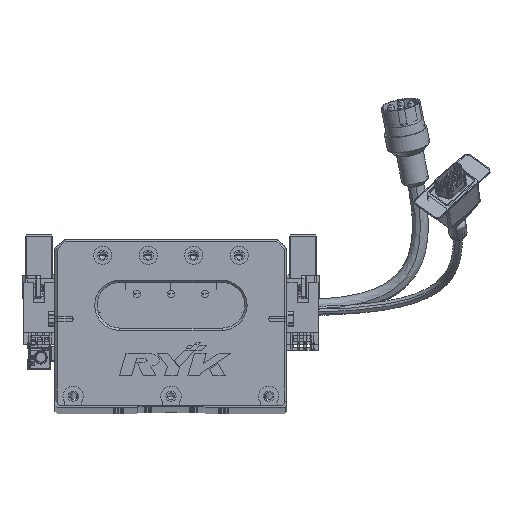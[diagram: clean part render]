
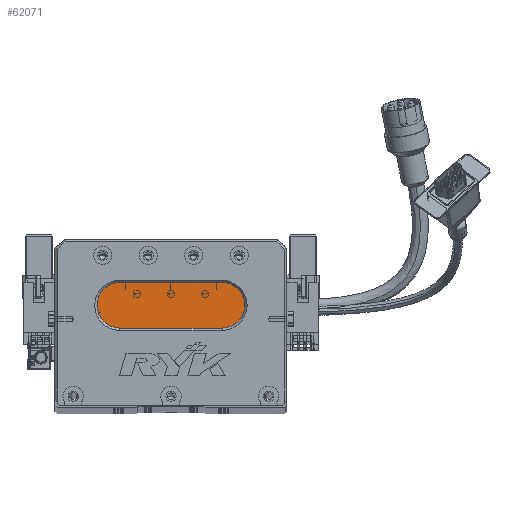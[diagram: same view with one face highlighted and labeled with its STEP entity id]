
A CAD part, top view. The second image highlights one B-rep face of the part: STEP entity #62071.
In plain terms, the highlighted planar face has unit normal (0, 0, 1) as drawn and (0, 0, -1) by its records, which use the part's own axes.
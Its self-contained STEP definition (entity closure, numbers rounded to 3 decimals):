
#224 = DIRECTION ( 'NONE',  ( -1., 0., 0. ) ) ;
#490 = CARTESIAN_POINT ( 'NONE',  ( 73.5, 54., 13. ) ) ;
#3278 = EDGE_CURVE ( 'NONE', #26989, #12404, #59865, .T. ) ;
#3344 = LINE ( 'NONE', #490, #19816 ) ;
#4297 = EDGE_CURVE ( 'NONE', #39252, #58796, #3344, .T. ) ;
#4648 = CARTESIAN_POINT ( 'NONE',  ( 18.5, 44., 13. ) ) ;
#7912 = ORIENTED_EDGE ( 'NONE', *, *, #3278, .T. ) ;
#8813 = DIRECTION ( 'NONE',  ( -1., 0., 0. ) ) ;
#9202 = AXIS2_PLACEMENT_3D ( 'NONE', #33050, #38125, #55753 ) ;
#10761 = CARTESIAN_POINT ( 'NONE',  ( 73.5, 44., 13. ) ) ;
#11109 = AXIS2_PLACEMENT_3D ( 'NONE', #29099, #23002, #224 ) ;
#11440 = EDGE_CURVE ( 'NONE', #51803, #39252, #75616, .T. ) ;
#12404 = VERTEX_POINT ( 'NONE', #26815 ) ;
#12968 = EDGE_CURVE ( 'NONE', #12404, #51803, #16273, .T. ) ;
#14184 = CARTESIAN_POINT ( 'NONE',  ( 73.5, 34., 13. ) ) ;
#15152 = EDGE_CURVE ( 'NONE', #58796, #26989, #56112, .T. ) ;
#16273 = CIRCLE ( 'NONE', #9202, 10. ) ;
#19164 = AXIS2_PLACEMENT_3D ( 'NONE', #57466, #28719, #28465 ) ;
#19816 = VECTOR ( 'NONE', #53996, 1000. ) ;
#21988 = CARTESIAN_POINT ( 'NONE',  ( 73.5, 54., 13. ) ) ;
#23002 = DIRECTION ( 'NONE',  ( 0., 0., -1. ) ) ;
#25324 = DIRECTION ( 'NONE',  ( -1., 0., 0. ) ) ;
#26377 = ORIENTED_EDGE ( 'NONE', *, *, #12968, .T. ) ;
#26815 = CARTESIAN_POINT ( 'NONE',  ( 28.5, 34., 13. ) ) ;
#26989 = VERTEX_POINT ( 'NONE', #52434 ) ;
#28465 = DIRECTION ( 'NONE',  ( -1., 0., 0. ) ) ;
#28719 = DIRECTION ( 'NONE',  ( 0., 0., -1. ) ) ;
#29099 = CARTESIAN_POINT ( 'NONE',  ( 73.5, 44., 13. ) ) ;
#29160 = ORIENTED_EDGE ( 'NONE', *, *, #4297, .T. ) ;
#29363 = ORIENTED_EDGE ( 'NONE', *, *, #11440, .T. ) ;
#33050 = CARTESIAN_POINT ( 'NONE',  ( 28.5, 44., 13. ) ) ;
#34822 = AXIS2_PLACEMENT_3D ( 'NONE', #10761, #47685, #25324 ) ;
#37757 = CARTESIAN_POINT ( 'NONE',  ( 28.5, 54., 13. ) ) ;
#38125 = DIRECTION ( 'NONE',  ( 0., 0., -1. ) ) ;
#38140 = ORIENTED_EDGE ( 'NONE', *, *, #15152, .T. ) ;
#39252 = VERTEX_POINT ( 'NONE', #37757 ) ;
#43091 = FACE_OUTER_BOUND ( 'NONE', #68812, .T. ) ;
#44332 = VECTOR ( 'NONE', #8813, 1000. ) ;
#47685 = DIRECTION ( 'NONE',  ( 0., 0., -1. ) ) ;
#51803 = VERTEX_POINT ( 'NONE', #4648 ) ;
#52434 = CARTESIAN_POINT ( 'NONE',  ( 73.5, 34., 13. ) ) ;
#53996 = DIRECTION ( 'NONE',  ( 1., 0., 0. ) ) ;
#55753 = DIRECTION ( 'NONE',  ( -1., 0., 0. ) ) ;
#56112 = CIRCLE ( 'NONE', #34822, 10. ) ;
#57344 = PLANE ( 'NONE',  #11109 ) ;
#57466 = CARTESIAN_POINT ( 'NONE',  ( 28.5, 44., 13. ) ) ;
#58796 = VERTEX_POINT ( 'NONE', #21988 ) ;
#59865 = LINE ( 'NONE', #14184, #44332 ) ;
#62071 = ADVANCED_FACE ( 'NONE', ( #43091 ), #57344, .T. ) ;
#68812 = EDGE_LOOP ( 'NONE', ( #38140, #7912, #26377, #29363, #29160 ) ) ;
#75616 = CIRCLE ( 'NONE', #19164, 10. ) ;
